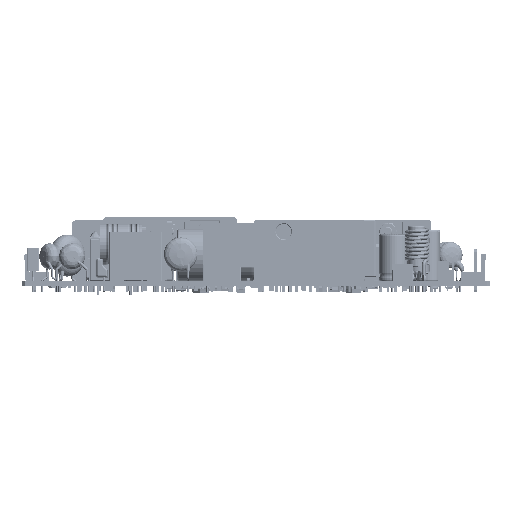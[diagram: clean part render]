
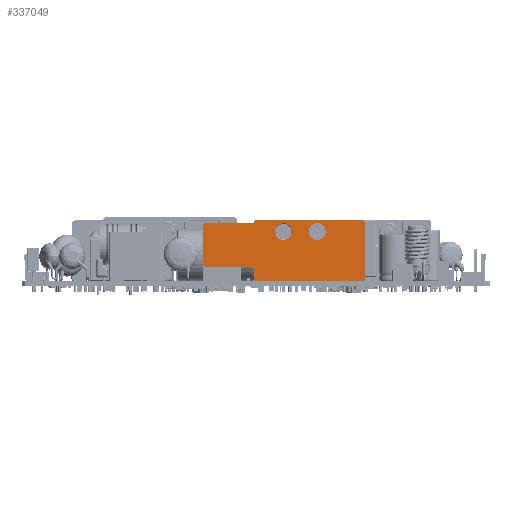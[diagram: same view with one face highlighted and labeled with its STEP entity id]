
A CAD part, front view. The second image highlights one B-rep face of the part: STEP entity #337049.
In plain terms, the highlighted planar face has unit normal (0, -1, 0) as drawn and (0, 0, -1) by its records, which use the part's own axes.
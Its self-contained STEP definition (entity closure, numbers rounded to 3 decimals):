
#336624=CARTESIAN_POINT('',(1.,20.,0.));
#336625=DIRECTION('',(0.,0.,1.));
#336626=DIRECTION('',(0.,1.,0.));
#336627=AXIS2_PLACEMENT_3D('',#336624,#336625,#336626);
#336629=DIRECTION('',(0.,-1.,0.));
#336630=VECTOR('',#336629,19.);
#336631=CARTESIAN_POINT('',(0.,20.,0.));
#336632=LINE('',#336631,#336630);
#336633=CARTESIAN_POINT('',(1.,1.,0.));
#336634=DIRECTION('',(0.,0.,1.));
#336635=DIRECTION('',(-1.,0.,0.));
#336636=AXIS2_PLACEMENT_3D('',#336633,#336634,#336635);
#336638=DIRECTION('',(1.,0.,0.));
#336639=VECTOR('',#336638,36.);
#336640=CARTESIAN_POINT('',(1.,0.,0.));
#336641=LINE('',#336640,#336639);
#336642=CARTESIAN_POINT('',(37.,1.,0.));
#336643=DIRECTION('',(0.,0.,1.));
#336644=DIRECTION('',(0.,-1.,0.));
#336645=AXIS2_PLACEMENT_3D('',#336642,#336643,#336644);
#336647=DIRECTION('',(0.,1.,0.));
#336648=VECTOR('',#336647,4.);
#336649=CARTESIAN_POINT('',(38.,1.,0.));
#336650=LINE('',#336649,#336648);
#336651=DIRECTION('',(1.,0.,0.));
#336652=VECTOR('',#336651,16.3);
#336653=CARTESIAN_POINT('',(38.,5.,0.));
#336654=LINE('',#336653,#336652);
#336655=CARTESIAN_POINT('',(54.3,6.,0.));
#336656=DIRECTION('',(0.,0.,1.));
#336657=DIRECTION('',(0.,-1.,0.));
#336658=AXIS2_PLACEMENT_3D('',#336655,#336656,#336657);
#336660=DIRECTION('',(0.,1.,0.));
#336661=VECTOR('',#336660,13.);
#336662=CARTESIAN_POINT('',(55.3,6.,0.));
#336663=LINE('',#336662,#336661);
#336664=CARTESIAN_POINT('',(54.3,19.,0.));
#336665=DIRECTION('',(0.,0.,1.));
#336666=DIRECTION('',(1.,0.,0.));
#336667=AXIS2_PLACEMENT_3D('',#336664,#336665,#336666);
#336669=DIRECTION('',(-1.,0.,0.));
#336670=VECTOR('',#336669,16.3);
#336671=CARTESIAN_POINT('',(54.3,20.,0.));
#336672=LINE('',#336671,#336670);
#336673=CARTESIAN_POINT('',(37.,20.,0.));
#336674=DIRECTION('',(0.,0.,1.));
#336675=DIRECTION('',(1.,0.,0.));
#336676=AXIS2_PLACEMENT_3D('',#336673,#336674,#336675);
#336678=DIRECTION('',(-1.,0.,0.));
#336679=VECTOR('',#336678,36.);
#336680=CARTESIAN_POINT('',(37.,21.,0.));
#336681=LINE('',#336680,#336679);
#336682=CARTESIAN_POINT('',(27.7,17.,0.));
#336683=DIRECTION('',(0.,0.,-1.));
#336684=DIRECTION('',(0.,1.,0.));
#336685=AXIS2_PLACEMENT_3D('',#336682,#336683,#336684);
#336687=CARTESIAN_POINT('',(27.7,17.,0.));
#336688=DIRECTION('',(0.,0.,-1.));
#336689=DIRECTION('',(0.,-1.,0.));
#336690=AXIS2_PLACEMENT_3D('',#336687,#336688,#336689);
#336692=CARTESIAN_POINT('',(16.2,17.,0.));
#336693=DIRECTION('',(0.,0.,-1.));
#336694=DIRECTION('',(0.,-1.,0.));
#336695=AXIS2_PLACEMENT_3D('',#336692,#336693,#336694);
#336697=CARTESIAN_POINT('',(16.2,17.,0.));
#336698=DIRECTION('',(0.,0.,-1.));
#336699=DIRECTION('',(0.,1.,0.));
#336700=AXIS2_PLACEMENT_3D('',#336697,#336698,#336699);
#336920=CARTESIAN_POINT('',(1.,21.,0.));
#336921=CARTESIAN_POINT('',(0.,20.,0.));
#336922=VERTEX_POINT('',#336920);
#336923=VERTEX_POINT('',#336921);
#336924=CARTESIAN_POINT('',(0.,1.,0.));
#336925=VERTEX_POINT('',#336924);
#336926=CARTESIAN_POINT('',(1.,0.,0.));
#336927=VERTEX_POINT('',#336926);
#336928=CARTESIAN_POINT('',(37.,0.,0.));
#336929=VERTEX_POINT('',#336928);
#336930=CARTESIAN_POINT('',(38.,1.,0.));
#336931=VERTEX_POINT('',#336930);
#336932=CARTESIAN_POINT('',(38.,5.,0.));
#336933=VERTEX_POINT('',#336932);
#336934=CARTESIAN_POINT('',(54.3,5.,0.));
#336935=VERTEX_POINT('',#336934);
#336936=CARTESIAN_POINT('',(55.3,6.,0.));
#336937=VERTEX_POINT('',#336936);
#336938=CARTESIAN_POINT('',(55.3,19.,0.));
#336939=VERTEX_POINT('',#336938);
#336940=CARTESIAN_POINT('',(54.3,20.,0.));
#336941=VERTEX_POINT('',#336940);
#336942=CARTESIAN_POINT('',(38.,20.,0.));
#336943=VERTEX_POINT('',#336942);
#336944=CARTESIAN_POINT('',(37.,21.,0.));
#336945=VERTEX_POINT('',#336944);
#336946=CARTESIAN_POINT('',(27.7,19.85,0.));
#336947=CARTESIAN_POINT('',(27.7,14.15,0.));
#336948=VERTEX_POINT('',#336946);
#336949=VERTEX_POINT('',#336947);
#336950=CARTESIAN_POINT('',(16.2,14.15,0.));
#336951=CARTESIAN_POINT('',(16.2,19.85,0.));
#336952=VERTEX_POINT('',#336950);
#336953=VERTEX_POINT('',#336951);
#337004=CARTESIAN_POINT('',(0.,0.,0.));
#337005=DIRECTION('',(0.,0.,1.));
#337006=DIRECTION('',(1.,0.,0.));
#337007=AXIS2_PLACEMENT_3D('',#337004,#337005,#337006);
#337008=PLANE('',#337007);
#337010=ORIENTED_EDGE('',*,*,#337009,.T.);
#337012=ORIENTED_EDGE('',*,*,#337011,.T.);
#337014=ORIENTED_EDGE('',*,*,#337013,.T.);
#337016=ORIENTED_EDGE('',*,*,#337015,.T.);
#337018=ORIENTED_EDGE('',*,*,#337017,.T.);
#337020=ORIENTED_EDGE('',*,*,#337019,.T.);
#337022=ORIENTED_EDGE('',*,*,#337021,.T.);
#337024=ORIENTED_EDGE('',*,*,#337023,.T.);
#337026=ORIENTED_EDGE('',*,*,#337025,.T.);
#337028=ORIENTED_EDGE('',*,*,#337027,.T.);
#337030=ORIENTED_EDGE('',*,*,#337029,.T.);
#337032=ORIENTED_EDGE('',*,*,#337031,.T.);
#337034=ORIENTED_EDGE('',*,*,#337033,.T.);
#337035=EDGE_LOOP('',(#337010,#337012,#337014,#337016,#337018,#337020,#337022,
#337024,#337026,#337028,#337030,#337032,#337034));
#337036=FACE_OUTER_BOUND('',#337035,.F.);
#337038=ORIENTED_EDGE('',*,*,#337037,.T.);
#337040=ORIENTED_EDGE('',*,*,#337039,.T.);
#337041=EDGE_LOOP('',(#337038,#337040));
#337042=FACE_BOUND('',#337041,.F.);
#337044=ORIENTED_EDGE('',*,*,#337043,.T.);
#337046=ORIENTED_EDGE('',*,*,#337045,.T.);
#337047=EDGE_LOOP('',(#337044,#337046));
#337048=FACE_BOUND('',#337047,.F.);
#336628=CIRCLE('',#336627,1.);
#336637=CIRCLE('',#336636,1.);
#336646=CIRCLE('',#336645,1.);
#336659=CIRCLE('',#336658,1.);
#336668=CIRCLE('',#336667,1.);
#336677=CIRCLE('',#336676,1.);
#336686=CIRCLE('',#336685,2.85);
#336691=CIRCLE('',#336690,2.85);
#336696=CIRCLE('',#336695,2.85);
#336701=CIRCLE('',#336700,2.85);
#337009=EDGE_CURVE('',#336922,#336923,#336628,.T.);
#337011=EDGE_CURVE('',#336923,#336925,#336632,.T.);
#337013=EDGE_CURVE('',#336925,#336927,#336637,.T.);
#337015=EDGE_CURVE('',#336927,#336929,#336641,.T.);
#337017=EDGE_CURVE('',#336929,#336931,#336646,.T.);
#337019=EDGE_CURVE('',#336931,#336933,#336650,.T.);
#337021=EDGE_CURVE('',#336933,#336935,#336654,.T.);
#337023=EDGE_CURVE('',#336935,#336937,#336659,.T.);
#337025=EDGE_CURVE('',#336937,#336939,#336663,.T.);
#337027=EDGE_CURVE('',#336939,#336941,#336668,.T.);
#337029=EDGE_CURVE('',#336941,#336943,#336672,.T.);
#337031=EDGE_CURVE('',#336943,#336945,#336677,.T.);
#337033=EDGE_CURVE('',#336945,#336922,#336681,.T.);
#337037=EDGE_CURVE('',#336948,#336949,#336686,.T.);
#337039=EDGE_CURVE('',#336949,#336948,#336691,.T.);
#337043=EDGE_CURVE('',#336952,#336953,#336696,.T.);
#337045=EDGE_CURVE('',#336953,#336952,#336701,.T.);
#337049=ADVANCED_FACE('',(#337036,#337042,#337048),#337008,.F.);
